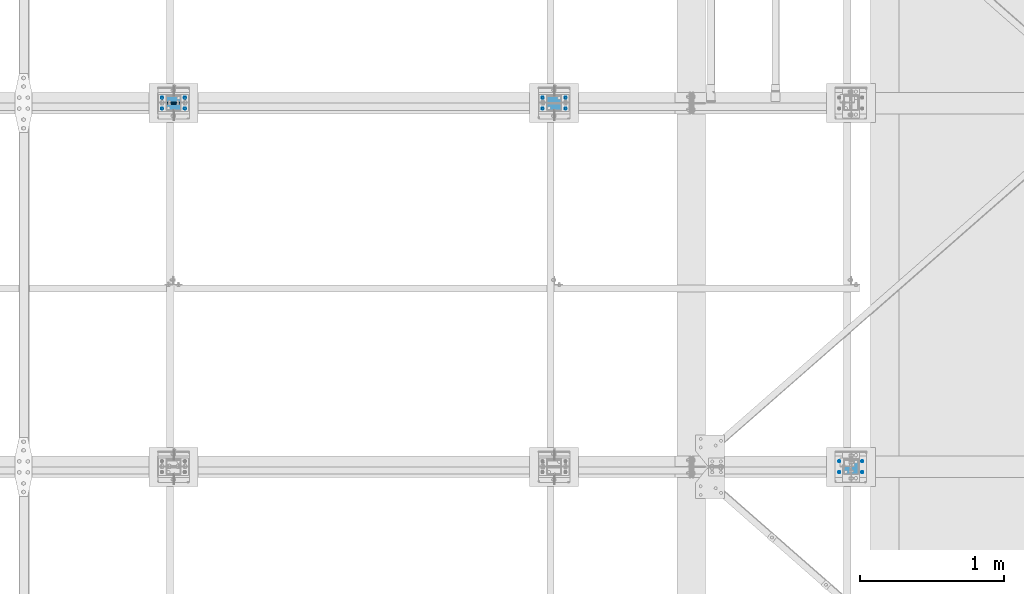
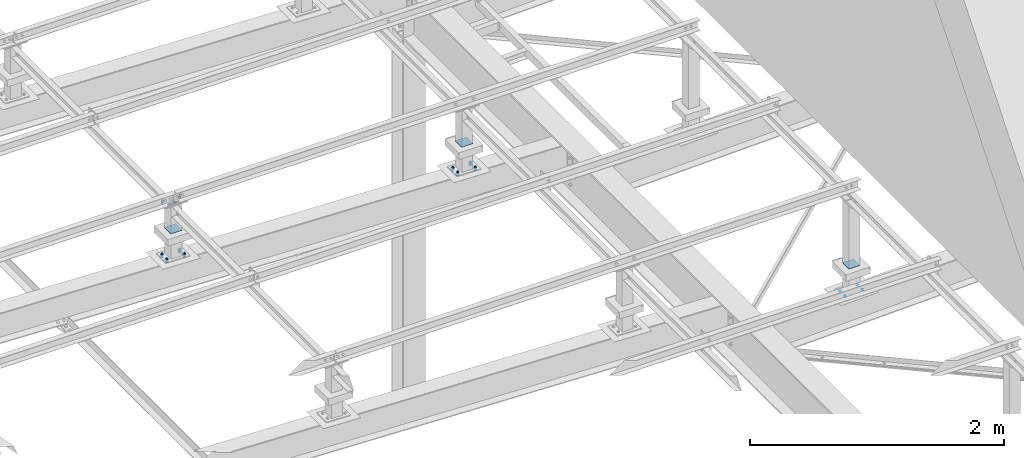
# One storey, part 83 of 3134: 10 mechanical fasteners, 7 elements without a shape of their own.
"""IFC2X3 building model written with IfcOpenShell, lengths in millimetres."""

from ifc_helpers import new_model, si_unit, frame, origin_with_axes, place, context, subcontext, project, spatial, faceted_brep, source, transform, mapped, material, type_object, element, aggregate, save


model = new_model("IFC2X3")

# Units and contexts
model_context = context("Model", 3, precision=1e-05, world=origin_with_axes())
body_context = subcontext(model_context, "Body", "Model", "MODEL_VIEW")
ifc_project = project(units=[si_unit("LENGTHUNIT", "METRE", prefix="MILLI"), si_unit("AREAUNIT", "SQUARE_METRE"), si_unit("VOLUMEUNIT", "CUBIC_METRE"), si_unit("MASSUNIT", "GRAM", prefix="KILO"), si_unit("TIMEUNIT", "SECOND"), si_unit("PLANEANGLEUNIT", "RADIAN"), si_unit("SOLIDANGLEUNIT", "STERADIAN"), si_unit("THERMODYNAMICTEMPERATUREUNIT", "DEGREE_CELSIUS"), si_unit("LUMINOUSINTENSITYUNIT", "LUMEN")], contexts=[model_context])

# Site, building, storey
site_placement = place(None, origin_with_axes())
site = spatial("IfcSite", under=ifc_project, at=site_placement, CompositionType="ELEMENT")
building_placement = place(site_placement, origin_with_axes())
building = spatial("IfcBuilding", under=site, at=building_placement, Name="Undefined", CompositionType="ELEMENT")
storey_placement = place(building_placement, origin_with_axes())
storey = spatial("IfcBuildingStorey", under=building, at=storey_placement, Name="Undefined", CompositionType="ELEMENT", Elevation=0.0)

# Assembly, mechanical fastener
assembly_1_placement = place(storey_placement, origin_with_axes())
assembly_1 = element("IfcElementAssembly", 1, at=assembly_1_placement, inside=storey, AssemblyPlace="NOTDEFINED", PredefinedType="RIGID_FRAME")
ifc_material_1 = material(Name="8.8")
mechanical_fastener_type = type_object("IfcMechanicalFastenerType", Name="Bolt assembly")
shared_shape_1 = source(origin_with_axes(), body_context, "Body", "Brep", [
    faceted_brep([(10.9696551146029, -14.0, 0.0), (5.48482755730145, -14.0, 9.5), (-5.48482755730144, -14.0, 9.5), (-10.9696551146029, -14.0, 1.34339530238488e-15), (-5.48482755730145, -14.0, -9.5), (5.48482755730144, -14.0, -9.50000000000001), (5.48482755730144, -6.0, -9.50000000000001), (-5.48482755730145, -6.0, -9.5), (-10.9696551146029, -6.0, 1.34339530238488e-15), (-5.48482755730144, -6.0, 9.5), (5.48482755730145, -6.0, 9.5), (10.9696551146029, -6.0, 0.0), (6.0, -6.0, 0.0), (5.19615242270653, -6.0, 3.00000000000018), (2.99999999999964, -6.0, 5.19615242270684), (-6.21801588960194e-13, -6.0, 6.0), (-3.00000000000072, -6.0, 5.19615242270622), (-5.19615242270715, -6.0, 2.9999999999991), (-6.0, -6.0, -1.24360317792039e-12), (-5.19615242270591, -6.0, -3.00000000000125), (-2.99999999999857, -6.0, -5.19615242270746), (1.85874342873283e-12, -6.0, -6.0), (3.00000000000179, -6.0, -5.1961524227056), (5.19615242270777, -6.0, -2.99999999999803), (5.19615242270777, 24.0, -2.99999999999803), (3.00000000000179, 24.0, -5.1961524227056), (1.85874342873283e-12, 24.0, -6.0), (-2.99999999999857, 24.0, -5.19615242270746), (-5.19615242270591, 24.0, -3.00000000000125), (-6.0, 24.0, -1.24360317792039e-12), (-5.19615242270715, 24.0, 2.9999999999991), (-3.00000000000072, 24.0, 5.19615242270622), (-6.21801588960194e-13, 24.0, 6.0), (2.99999999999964, 24.0, 5.19615242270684), (5.19615242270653, 24.0, 3.00000000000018), (6.0, 24.0, 0.0), (10.9696551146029, 6.00000000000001, 0.0), (5.48482755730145, 6.00000000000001, 9.5), (-5.48482755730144, 6.00000000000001, 9.5), (-10.9696551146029, 6.00000000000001, 1.34339530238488e-15), (-5.48482755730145, 6.00000000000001, -9.5), (5.48482755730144, 6.00000000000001, -9.50000000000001), (5.48482755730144, 16.0, -9.50000000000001), (-5.48482755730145, 16.0, -9.5), (-10.9696551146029, 16.0, 1.34339530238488e-15), (-5.48482755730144, 16.0, 9.5), (5.48482755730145, 16.0, 9.5), (10.9696551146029, 16.0, 0.0)], [[[0, 1, 2, 3, 4, 5]], [[6, 7, 8, 9, 10, 11]], [[0, 11, 10, 1]], [[1, 10, 9, 2]], [[2, 9, 8, 3]], [[3, 8, 7, 4]], [[4, 7, 6, 5]], [[5, 6, 11, 0]], [[12, 13, 14, 15, 16, 17, 18, 19, 20, 21, 22, 23]], [[24, 25, 26, 27, 28, 29, 30, 31, 32, 33, 34, 35]], [[12, 35, 34, 13]], [[13, 34, 33, 14]], [[14, 33, 32, 15]], [[15, 32, 31, 16]], [[16, 31, 30, 17]], [[17, 30, 29, 18]], [[18, 29, 28, 19]], [[19, 28, 27, 20]], [[20, 27, 26, 21]], [[21, 26, 25, 22]], [[22, 25, 24, 23]], [[23, 24, 35, 12]], [[36, 37, 38, 39, 40, 41]], [[42, 43, 44, 45, 46, 47]], [[36, 47, 46, 37]], [[37, 46, 45, 38]], [[38, 45, 44, 39]], [[39, 44, 43, 40]], [[40, 43, 42, 41]], [[41, 42, 47, 36]]]),
    faceted_brep([(7.0, -0.1, 0.0), (6.06217782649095, -0.1, 3.50000000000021), (3.49999999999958, -0.1, 6.06217782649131), (-7.25435187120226e-13, -0.1, 7.0), (-3.50000000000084, -0.1, 6.06217782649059), (-6.06217782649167, -0.1, 3.49999999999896), (-7.0, -0.1, -1.45087037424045e-12), (-6.06217782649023, -0.1, -3.50000000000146), (-3.49999999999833, -0.1, -6.06217782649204), (2.1685340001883e-12, -0.1, -7.0), (3.50000000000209, -0.1, -6.06217782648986), (6.0621778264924, -0.1, -3.4999999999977), (6.0621778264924, 6.00000000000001, -3.4999999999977), (3.50000000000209, 6.00000000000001, -6.06217782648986), (2.1685340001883e-12, 6.00000000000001, -7.0), (-3.49999999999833, 6.00000000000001, -6.06217782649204), (-6.06217782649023, 6.00000000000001, -3.50000000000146), (-7.0, 6.00000000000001, -1.45087037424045e-12), (-6.06217782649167, 6.00000000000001, 3.49999999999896), (-3.50000000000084, 6.00000000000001, 6.06217782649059), (-7.25435187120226e-13, 6.00000000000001, 7.0), (3.49999999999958, 6.00000000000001, 6.06217782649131), (6.06217782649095, 6.00000000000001, 3.50000000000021), (7.0, 6.00000000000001, 0.0), (7.0, -5.9, 0.0), (6.06217782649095, -5.9, 3.50000000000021), (3.49999999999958, -5.9, 6.06217782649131), (-7.25435187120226e-13, -5.9, 7.0), (-3.50000000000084, -5.9, 6.06217782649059), (-6.06217782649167, -5.9, 3.49999999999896), (-7.0, -5.9, -1.45087037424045e-12), (-6.06217782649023, -5.9, -3.50000000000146), (-3.49999999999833, -5.9, -6.06217782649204), (2.1685340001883e-12, -5.9, -7.0), (3.50000000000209, -5.9, -6.06217782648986), (6.0621778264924, -5.9, -3.4999999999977), (6.0621778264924, 0.0999999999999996, -3.4999999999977), (3.50000000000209, 0.0999999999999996, -6.06217782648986), (2.1685340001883e-12, 0.0999999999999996, -7.0), (-3.49999999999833, 0.0999999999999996, -6.06217782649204), (-6.06217782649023, 0.0999999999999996, -3.50000000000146), (-7.0, 0.0999999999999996, -1.45087037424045e-12), (-6.06217782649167, 0.0999999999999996, 3.49999999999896), (-3.50000000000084, 0.0999999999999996, 6.06217782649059), (-7.25435187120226e-13, 0.0999999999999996, 7.0), (3.49999999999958, 0.0999999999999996, 6.06217782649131), (6.06217782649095, 0.0999999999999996, 3.50000000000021), (7.0, 0.0999999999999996, 0.0)], [[[0, 1, 2, 3, 4, 5, 6, 7, 8, 9, 10, 11]], [[12, 13, 14, 15, 16, 17, 18, 19, 20, 21, 22, 23]], [[0, 23, 22, 1]], [[1, 22, 21, 2]], [[2, 21, 20, 3]], [[3, 20, 19, 4]], [[4, 19, 18, 5]], [[5, 18, 17, 6]], [[6, 17, 16, 7]], [[7, 16, 15, 8]], [[8, 15, 14, 9]], [[9, 14, 13, 10]], [[10, 13, 12, 11]], [[11, 12, 23, 0]], [[24, 25, 26, 27, 28, 29, 30, 31, 32, 33, 34, 35]], [[36, 37, 38, 39, 40, 41, 42, 43, 44, 45, 46, 47]], [[24, 47, 46, 25]], [[25, 46, 45, 26]], [[26, 45, 44, 27]], [[27, 44, 43, 28]], [[28, 43, 42, 29]], [[29, 42, 41, 30]], [[30, 41, 40, 31]], [[31, 40, 39, 32]], [[32, 39, 38, 33]], [[33, 38, 37, 34]], [[34, 37, 36, 35]], [[35, 36, 47, 24]]]),
])
mechanical_fastener_1_placement = place(assembly_1_placement, frame((5691.67, 27078.75, 4365.0), z_axis=(1.0, 0.0, 0.0), x_axis=(0.0, -1.0, 0.0)))
mechanical_fastener_1 = element("IfcMechanicalFastener", 2, at=mechanical_fastener_1_placement, type_object=mechanical_fastener_type, material=ifc_material_1, Name="Bolt assembly", NominalDiameter=12.0, NominalLength=30.0, context=body_context, shape_type="MappedRepresentation", body=[
    mapped(shared_shape_1, transform((0.0, -5.32963895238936e-10, -79.9999999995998))),
    mapped(shared_shape_1, transform((0.0, 5.3114490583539e-10, 79.9999999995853))),
])
aggregate(assembly_1, [mechanical_fastener_1])

assembly_2_placement = place(storey_placement, origin_with_axes())
assembly_2 = element("IfcElementAssembly", 3, at=assembly_2_placement, inside=storey, AssemblyPlace="NOTDEFINED", PredefinedType="RIGID_FRAME")
shared_shape_2 = source(origin_with_axes(), body_context, "Body", "Brep", [
    faceted_brep([(10.9696551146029, -4.18280906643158, 0.0), (5.48482755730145, -4.18280906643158, 9.5), (-5.48482755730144, -4.18280906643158, 9.5), (-10.9696551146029, -4.18280906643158, 1.34339530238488e-15), (-5.48482755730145, -4.18280906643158, -9.5), (5.48482755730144, -4.18280906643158, -9.50000000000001), (5.48482755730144, 3.81719093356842, -9.50000000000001), (-5.48482755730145, 3.81719093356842, -9.5), (-10.9696551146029, 3.81719093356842, 1.34339530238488e-15), (-5.48482755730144, 3.81719093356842, 9.5), (5.48482755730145, 3.81719093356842, 9.5), (10.9696551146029, 3.81719093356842, 0.0), (6.0, 3.81719093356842, 0.0), (5.19615242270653, 3.81719093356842, 3.00000000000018), (2.99999999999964, 3.81719093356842, 5.19615242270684), (-6.21801588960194e-13, 3.81719093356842, 6.0), (-3.00000000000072, 3.81719093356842, 5.19615242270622), (-5.19615242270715, 3.81719093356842, 2.9999999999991), (-6.0, 3.81719093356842, -1.24360317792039e-12), (-5.19615242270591, 3.81719093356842, -3.00000000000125), (-2.99999999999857, 3.81719093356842, -5.19615242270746), (1.85874342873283e-12, 3.81719093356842, -6.0), (3.00000000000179, 3.81719093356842, -5.1961524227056), (5.19615242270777, 3.81719093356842, -2.99999999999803), (5.19615242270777, 38.8171909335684, -2.99999999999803), (3.00000000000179, 38.8171909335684, -5.1961524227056), (1.85874342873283e-12, 38.8171909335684, -6.0), (-2.99999999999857, 38.8171909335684, -5.19615242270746), (-5.19615242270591, 38.8171909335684, -3.00000000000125), (-6.0, 38.8171909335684, -1.24360317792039e-12), (-5.19615242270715, 38.8171909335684, 2.9999999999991), (-3.00000000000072, 38.8171909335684, 5.19615242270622), (-6.21801588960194e-13, 38.8171909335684, 6.0), (2.99999999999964, 38.8171909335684, 5.19615242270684), (5.19615242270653, 38.8171909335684, 3.00000000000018), (6.0, 38.8171909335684, 0.0), (10.9696551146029, 23.0139082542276, 0.0), (5.48482755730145, 23.0139082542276, 9.5), (-5.48482755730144, 23.0139082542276, 9.5), (-10.9696551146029, 23.0139082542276, 1.34339530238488e-15), (-5.48482755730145, 23.0139082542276, -9.5), (5.48482755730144, 23.0139082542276, -9.50000000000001), (5.48482755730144, 33.0139082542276, -9.50000000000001), (-5.48482755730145, 33.0139082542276, -9.5), (-10.9696551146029, 33.0139082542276, 1.34339530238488e-15), (-5.48482755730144, 33.0139082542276, 9.5), (5.48482755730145, 33.0139082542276, 9.5), (10.9696551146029, 33.0139082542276, 0.0)], [[[0, 1, 2, 3, 4, 5]], [[6, 7, 8, 9, 10, 11]], [[0, 11, 10, 1]], [[1, 10, 9, 2]], [[2, 9, 8, 3]], [[3, 8, 7, 4]], [[4, 7, 6, 5]], [[5, 6, 11, 0]], [[12, 13, 14, 15, 16, 17, 18, 19, 20, 21, 22, 23]], [[24, 25, 26, 27, 28, 29, 30, 31, 32, 33, 34, 35]], [[12, 35, 34, 13]], [[13, 34, 33, 14]], [[14, 33, 32, 15]], [[15, 32, 31, 16]], [[16, 31, 30, 17]], [[17, 30, 29, 18]], [[18, 29, 28, 19]], [[19, 28, 27, 20]], [[20, 27, 26, 21]], [[21, 26, 25, 22]], [[22, 25, 24, 23]], [[23, 24, 35, 12]], [[36, 37, 38, 39, 40, 41]], [[42, 43, 44, 45, 46, 47]], [[36, 47, 46, 37]], [[37, 46, 45, 38]], [[38, 45, 44, 39]], [[39, 44, 43, 40]], [[40, 43, 42, 41]], [[41, 42, 47, 36]]]),
    faceted_brep([(7.0, 3.91719093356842, 0.0), (6.06217782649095, 3.91719093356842, 3.50000000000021), (3.49999999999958, 3.91719093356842, 6.06217782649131), (-7.25435187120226e-13, 3.91719093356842, 7.0), (-3.50000000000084, 3.91719093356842, 6.06217782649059), (-6.06217782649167, 3.91719093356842, 3.49999999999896), (-7.0, 3.91719093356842, -1.45087037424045e-12), (-6.06217782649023, 3.91719093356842, -3.50000000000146), (-3.49999999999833, 3.91719093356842, -6.06217782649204), (2.1685340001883e-12, 3.91719093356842, -7.0), (3.50000000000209, 3.91719093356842, -6.06217782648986), (6.0621778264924, 3.91719093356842, -3.4999999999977), (6.0621778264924, 13.1171907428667, -3.4999999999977), (3.50000000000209, 13.1171907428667, -6.06217782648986), (2.1685340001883e-12, 13.1171907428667, -7.0), (-3.49999999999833, 13.1171907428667, -6.06217782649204), (-6.06217782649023, 13.1171907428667, -3.50000000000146), (-7.0, 13.1171907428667, -1.45087037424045e-12), (-6.06217782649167, 13.1171907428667, 3.49999999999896), (-3.50000000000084, 13.1171907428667, 6.06217782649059), (-7.25435187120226e-13, 13.1171907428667, 7.0), (3.49999999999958, 13.1171907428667, 6.06217782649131), (6.06217782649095, 13.1171907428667, 3.50000000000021), (7.0, 13.1171907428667, 0.0), (7.0, 14.9139082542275, 0.0), (6.06217782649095, 14.9139082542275, 3.50000000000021), (3.49999999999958, 14.9139082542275, 6.06217782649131), (-7.25435187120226e-13, 14.9139082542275, 7.0), (-3.50000000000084, 14.9139082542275, 6.06217782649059), (-6.06217782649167, 14.9139082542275, 3.49999999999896), (-7.0, 14.9139082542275, -1.45087037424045e-12), (-6.06217782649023, 14.9139082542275, -3.50000000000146), (-3.49999999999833, 14.9139082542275, -6.06217782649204), (2.1685340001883e-12, 14.9139082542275, -7.0), (3.50000000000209, 14.9139082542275, -6.06217782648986), (6.0621778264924, 14.9139082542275, -3.4999999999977), (6.0621778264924, 23.0139082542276, -3.4999999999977), (3.50000000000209, 23.0139082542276, -6.06217782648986), (2.1685340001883e-12, 23.0139082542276, -7.0), (-3.49999999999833, 23.0139082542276, -6.06217782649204), (-6.06217782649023, 23.0139082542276, -3.50000000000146), (-7.0, 23.0139082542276, -1.45087037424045e-12), (-6.06217782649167, 23.0139082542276, 3.49999999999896), (-3.50000000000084, 23.0139082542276, 6.06217782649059), (-7.25435187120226e-13, 23.0139082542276, 7.0), (3.49999999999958, 23.0139082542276, 6.06217782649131), (6.06217782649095, 23.0139082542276, 3.50000000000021), (7.0, 23.0139082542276, 0.0)], [[[0, 1, 2, 3, 4, 5, 6, 7, 8, 9, 10, 11]], [[12, 13, 14, 15, 16, 17, 18, 19, 20, 21, 22, 23]], [[0, 23, 22, 1]], [[1, 22, 21, 2]], [[2, 21, 20, 3]], [[3, 20, 19, 4]], [[4, 19, 18, 5]], [[5, 18, 17, 6]], [[6, 17, 16, 7]], [[7, 16, 15, 8]], [[8, 15, 14, 9]], [[9, 14, 13, 10]], [[10, 13, 12, 11]], [[11, 12, 23, 0]], [[24, 25, 26, 27, 28, 29, 30, 31, 32, 33, 34, 35]], [[36, 37, 38, 39, 40, 41, 42, 43, 44, 45, 46, 47]], [[24, 47, 46, 25]], [[25, 46, 45, 26]], [[26, 45, 44, 27]], [[27, 44, 43, 28]], [[28, 43, 42, 29]], [[29, 42, 41, 30]], [[30, 41, 40, 31]], [[31, 40, 39, 32]], [[32, 39, 38, 33]], [[33, 38, 37, 34]], [[34, 37, 36, 35]], [[35, 36, 47, 24]]]),
])
mechanical_fastener_2_placement = place(assembly_2_placement, frame((5690.86474073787, 27081.7499999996, 3827.79222028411), z_axis=(-0.999387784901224, 0.0, 0.0349865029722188), x_axis=(0.0, -1.0, 0.0)))
mechanical_fastener_2 = element("IfcMechanicalFastener", 4, at=mechanical_fastener_2_placement, type_object=mechanical_fastener_type, material=ifc_material_1, Name="Bolt assembly", NominalDiameter=12.0, NominalLength=35.0, context=body_context, shape_type="MappedRepresentation", body=[
    mapped(shared_shape_2, transform((0.0, -5.32963895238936e-10, -79.9999999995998))),
    mapped(shared_shape_2, transform((76.0, -5.32963895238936e-10, -79.9999999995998))),
    mapped(shared_shape_2, transform((0.0, 5.3114490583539e-10, 79.9999999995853))),
    mapped(shared_shape_2, transform((76.0, 5.3114490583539e-10, 79.9999999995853))),
])

assembly_3_placement = place(storey_placement, origin_with_axes())
assembly_3 = element("IfcElementAssembly", 5, at=assembly_3_placement, inside=storey, AssemblyPlace="NOTDEFINED", PredefinedType="RIGID_FRAME")
shared_shape_3 = source(origin_with_axes(), body_context, "Body", "Brep", [
    faceted_brep([(10.9696551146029, -4.18346828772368, 0.0), (5.48482755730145, -4.18346828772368, 9.5), (-5.48482755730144, -4.18346828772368, 9.5), (-10.9696551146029, -4.18346828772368, 1.34339530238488e-15), (-5.48482755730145, -4.18346828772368, -9.5), (5.48482755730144, -4.18346828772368, -9.50000000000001), (5.48482755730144, 3.81653171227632, -9.50000000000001), (-5.48482755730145, 3.81653171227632, -9.5), (-10.9696551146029, 3.81653171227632, 1.34339530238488e-15), (-5.48482755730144, 3.81653171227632, 9.5), (5.48482755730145, 3.81653171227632, 9.5), (10.9696551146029, 3.81653171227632, 0.0), (6.0, 3.81653171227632, 0.0), (5.19615242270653, 3.81653171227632, 3.00000000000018), (2.99999999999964, 3.81653171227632, 5.19615242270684), (-6.21801588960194e-13, 3.81653171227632, 6.0), (-3.00000000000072, 3.81653171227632, 5.19615242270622), (-5.19615242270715, 3.81653171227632, 2.9999999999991), (-6.0, 3.81653171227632, -1.24360317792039e-12), (-5.19615242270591, 3.81653171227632, -3.00000000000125), (-2.99999999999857, 3.81653171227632, -5.19615242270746), (1.85874342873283e-12, 3.81653171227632, -6.0), (3.00000000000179, 3.81653171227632, -5.1961524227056), (5.19615242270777, 3.81653171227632, -2.99999999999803), (5.19615242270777, 38.8165317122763, -2.99999999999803), (3.00000000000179, 38.8165317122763, -5.1961524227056), (1.85874342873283e-12, 38.8165317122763, -6.0), (-2.99999999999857, 38.8165317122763, -5.19615242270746), (-5.19615242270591, 38.8165317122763, -3.00000000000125), (-6.0, 38.8165317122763, -1.24360317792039e-12), (-5.19615242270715, 38.8165317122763, 2.9999999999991), (-3.00000000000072, 38.8165317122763, 5.19615242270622), (-6.21801588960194e-13, 38.8165317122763, 6.0), (2.99999999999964, 38.8165317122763, 5.19615242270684), (5.19615242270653, 38.8165317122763, 3.00000000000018), (6.0, 38.8165317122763, 0.0), (10.9696551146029, 23.0139082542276, 0.0), (5.48482755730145, 23.0139082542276, 9.5), (-5.48482755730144, 23.0139082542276, 9.5), (-10.9696551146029, 23.0139082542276, 1.34339530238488e-15), (-5.48482755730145, 23.0139082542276, -9.5), (5.48482755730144, 23.0139082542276, -9.50000000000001), (5.48482755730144, 33.0139082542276, -9.50000000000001), (-5.48482755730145, 33.0139082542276, -9.5), (-10.9696551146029, 33.0139082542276, 1.34339530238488e-15), (-5.48482755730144, 33.0139082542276, 9.5), (5.48482755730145, 33.0139082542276, 9.5), (10.9696551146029, 33.0139082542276, 0.0)], [[[0, 1, 2, 3, 4, 5]], [[6, 7, 8, 9, 10, 11]], [[0, 11, 10, 1]], [[1, 10, 9, 2]], [[2, 9, 8, 3]], [[3, 8, 7, 4]], [[4, 7, 6, 5]], [[5, 6, 11, 0]], [[12, 13, 14, 15, 16, 17, 18, 19, 20, 21, 22, 23]], [[24, 25, 26, 27, 28, 29, 30, 31, 32, 33, 34, 35]], [[12, 35, 34, 13]], [[13, 34, 33, 14]], [[14, 33, 32, 15]], [[15, 32, 31, 16]], [[16, 31, 30, 17]], [[17, 30, 29, 18]], [[18, 29, 28, 19]], [[19, 28, 27, 20]], [[20, 27, 26, 21]], [[21, 26, 25, 22]], [[22, 25, 24, 23]], [[23, 24, 35, 12]], [[36, 37, 38, 39, 40, 41]], [[42, 43, 44, 45, 46, 47]], [[36, 47, 46, 37]], [[37, 46, 45, 38]], [[38, 45, 44, 39]], [[39, 44, 43, 40]], [[40, 43, 42, 41]], [[41, 42, 47, 36]]]),
    faceted_brep([(7.0, 3.91653171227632, 0.0), (6.06217782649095, 3.91653171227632, 3.50000000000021), (3.49999999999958, 3.91653171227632, 6.06217782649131), (-7.25435187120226e-13, 3.91653171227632, 7.0), (-3.50000000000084, 3.91653171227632, 6.06217782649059), (-6.06217782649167, 3.91653171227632, 3.49999999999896), (-7.0, 3.91653171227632, -1.45087037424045e-12), (-6.06217782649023, 3.91653171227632, -3.50000000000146), (-3.49999999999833, 3.91653171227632, -6.06217782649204), (2.1685340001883e-12, 3.91653171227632, -7.0), (3.50000000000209, 3.91653171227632, -6.06217782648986), (6.0621778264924, 3.91653171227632, -3.4999999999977), (6.0621778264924, 13.1165315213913, -3.4999999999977), (3.50000000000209, 13.1165315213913, -6.06217782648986), (2.1685340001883e-12, 13.1165315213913, -7.0), (-3.49999999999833, 13.1165315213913, -6.06217782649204), (-6.06217782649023, 13.1165315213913, -3.50000000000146), (-7.0, 13.1165315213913, -1.45087037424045e-12), (-6.06217782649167, 13.1165315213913, 3.49999999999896), (-3.50000000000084, 13.1165315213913, 6.06217782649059), (-7.25435187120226e-13, 13.1165315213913, 7.0), (3.49999999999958, 13.1165315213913, 6.06217782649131), (6.06217782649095, 13.1165315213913, 3.50000000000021), (7.0, 13.1165315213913, 0.0), (7.0, 14.9139082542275, 0.0), (6.06217782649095, 14.9139082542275, 3.50000000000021), (3.49999999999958, 14.9139082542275, 6.06217782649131), (-7.25435187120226e-13, 14.9139082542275, 7.0), (-3.50000000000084, 14.9139082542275, 6.06217782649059), (-6.06217782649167, 14.9139082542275, 3.49999999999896), (-7.0, 14.9139082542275, -1.45087037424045e-12), (-6.06217782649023, 14.9139082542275, -3.50000000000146), (-3.49999999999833, 14.9139082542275, -6.06217782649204), (2.1685340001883e-12, 14.9139082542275, -7.0), (3.50000000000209, 14.9139082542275, -6.06217782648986), (6.0621778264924, 14.9139082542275, -3.4999999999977), (6.0621778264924, 23.0139082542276, -3.4999999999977), (3.50000000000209, 23.0139082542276, -6.06217782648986), (2.1685340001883e-12, 23.0139082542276, -7.0), (-3.49999999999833, 23.0139082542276, -6.06217782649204), (-6.06217782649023, 23.0139082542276, -3.50000000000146), (-7.0, 23.0139082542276, -1.45087037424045e-12), (-6.06217782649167, 23.0139082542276, 3.49999999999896), (-3.50000000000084, 23.0139082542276, 6.06217782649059), (-7.25435187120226e-13, 23.0139082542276, 7.0), (3.49999999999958, 23.0139082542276, 6.06217782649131), (6.06217782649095, 23.0139082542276, 3.50000000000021), (7.0, 23.0139082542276, 0.0)], [[[0, 1, 2, 3, 4, 5, 6, 7, 8, 9, 10, 11]], [[12, 13, 14, 15, 16, 17, 18, 19, 20, 21, 22, 23]], [[0, 23, 22, 1]], [[1, 22, 21, 2]], [[2, 21, 20, 3]], [[3, 20, 19, 4]], [[4, 19, 18, 5]], [[5, 18, 17, 6]], [[6, 17, 16, 7]], [[7, 16, 15, 8]], [[8, 15, 14, 9]], [[9, 14, 13, 10]], [[10, 13, 12, 11]], [[11, 12, 23, 0]], [[24, 25, 26, 27, 28, 29, 30, 31, 32, 33, 34, 35]], [[36, 37, 38, 39, 40, 41, 42, 43, 44, 45, 46, 47]], [[24, 47, 46, 25]], [[25, 46, 45, 26]], [[26, 45, 44, 27]], [[27, 44, 43, 28]], [[28, 43, 42, 29]], [[29, 42, 41, 30]], [[30, 41, 40, 31]], [[31, 40, 39, 32]], [[32, 39, 38, 33]], [[33, 38, 37, 34]], [[34, 37, 36, 35]], [[35, 36, 47, 24]]]),
])
mechanical_fastener_3_placement = place(assembly_3_placement, frame((8339.1931765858, 27081.7499999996, 3735.10000668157), z_axis=(-0.999387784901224, 0.0, 0.0349865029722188), x_axis=(0.0, -1.0, 0.0)))
mechanical_fastener_3 = element("IfcMechanicalFastener", 6, at=mechanical_fastener_3_placement, type_object=mechanical_fastener_type, material=ifc_material_1, Name="Bolt assembly", NominalDiameter=12.0, NominalLength=35.0, context=body_context, shape_type="MappedRepresentation", body=[
    mapped(shared_shape_3, transform((0.0, -5.32963895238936e-10, -79.9999999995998))),
    mapped(shared_shape_3, transform((76.0, -5.32963895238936e-10, -79.9999999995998))),
    mapped(shared_shape_3, transform((0.0, 5.3114490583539e-10, 79.9999999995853))),
    mapped(shared_shape_3, transform((76.0, 5.3114490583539e-10, 79.9999999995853))),
])

assembly_4_placement = place(storey_placement, origin_with_axes())
assembly_4 = element("IfcElementAssembly", 7, at=assembly_4_placement, inside=storey, AssemblyPlace="NOTDEFINED", PredefinedType="RIGID_FRAME")
shared_shape_4 = source(origin_with_axes(), body_context, "Body", "Brep", [
    faceted_brep([(7.0, 13.0000253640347, 0.0), (6.06217782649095, 13.0000253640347, 3.50000000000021), (3.49999999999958, 13.0000253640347, 6.06217782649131), (-7.25435187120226e-13, 13.0000253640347, 7.0), (-3.50000000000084, 13.0000253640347, 6.06217782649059), (-6.06217782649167, 13.0000253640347, 3.49999999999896), (-7.0, 13.0000253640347, -1.45087037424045e-12), (-6.06217782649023, 13.0000253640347, -3.50000000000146), (-3.49999999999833, 13.0000253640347, -6.06217782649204), (2.1685340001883e-12, 13.0000253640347, -7.0), (3.50000000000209, 13.0000253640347, -6.06217782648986), (6.0621778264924, 13.0000253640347, -3.4999999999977), (6.0621778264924, 15.0999999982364, -3.4999999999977), (3.50000000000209, 15.0999999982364, -6.06217782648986), (2.1685340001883e-12, 15.0999999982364, -7.0), (-3.49999999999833, 15.0999999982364, -6.06217782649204), (-6.06217782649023, 15.0999999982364, -3.50000000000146), (-7.0, 15.0999999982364, -1.45087037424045e-12), (-6.06217782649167, 15.0999999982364, 3.49999999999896), (-3.50000000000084, 15.0999999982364, 6.06217782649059), (-7.25435187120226e-13, 15.0999999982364, 7.0), (3.49999999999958, 15.0999999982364, 6.06217782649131), (6.06217782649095, 15.0999999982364, 3.50000000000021), (7.0, 15.0999999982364, 0.0)], [[[0, 1, 2, 3, 4, 5, 6, 7, 8, 9, 10, 11]], [[12, 13, 14, 15, 16, 17, 18, 19, 20, 21, 22, 23]], [[0, 23, 22, 1]], [[1, 22, 21, 2]], [[2, 21, 20, 3]], [[3, 20, 19, 4]], [[4, 19, 18, 5]], [[5, 18, 17, 6]], [[6, 17, 16, 7]], [[7, 16, 15, 8]], [[8, 15, 14, 9]], [[9, 14, 13, 10]], [[10, 13, 12, 11]], [[11, 12, 23, 0]]]),
])
mechanical_fastener_4_placement = place(assembly_4_placement, frame((10405.7748812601, 24474.5, 3374.2272055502), z_axis=(0.999519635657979, 0.0, 0.0309919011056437), x_axis=(0.0, 1.0, 0.0)))
mechanical_fastener_4 = element("IfcMechanicalFastener", 8, at=mechanical_fastener_4_placement, type_object=mechanical_fastener_type, material=ifc_material_1, Name="Bolt assembly", NominalDiameter=12.0, NominalLength=2.0, context=body_context, shape_type="MappedRepresentation", body=[
    mapped(shared_shape_4, transform((0.0, -5.32963895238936e-10, -79.9999999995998))),
    mapped(shared_shape_4, transform((76.0, -5.32963895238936e-10, -79.9999999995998))),
    mapped(shared_shape_4, transform((0.0, 5.3114490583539e-10, 79.9999999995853))),
    mapped(shared_shape_4, transform((76.0, 5.3114490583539e-10, 79.9999999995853))),
])
aggregate(assembly_4, [mechanical_fastener_4])

assembly_5_placement = place(storey_placement, origin_with_axes())
assembly_5 = element("IfcElementAssembly", 9, at=assembly_5_placement, inside=storey, AssemblyPlace="NOTDEFINED", PredefinedType="RIGID_FRAME")
mechanical_fastener_5_placement = place(assembly_5_placement, frame((8339.1931765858, 27081.7499999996, 3735.10000668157), z_axis=(-0.999387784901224, 0.0, 0.0349865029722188), x_axis=(0.0, -1.0, 0.0)))
mechanical_fastener_5 = element("IfcMechanicalFastener", 10, at=mechanical_fastener_5_placement, type_object=mechanical_fastener_type, material=ifc_material_1, Name="Bolt assembly", NominalDiameter=12.0, NominalLength=2.0, context=body_context, shape_type="MappedRepresentation", body=[
    mapped(shared_shape_4, transform((0.0, -5.32963895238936e-10, -79.9999999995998))),
    mapped(shared_shape_4, transform((76.0, -5.32963895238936e-10, -79.9999999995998))),
    mapped(shared_shape_4, transform((0.0, 5.3114490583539e-10, 79.9999999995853))),
    mapped(shared_shape_4, transform((76.0, 5.3114490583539e-10, 79.9999999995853))),
])
aggregate(assembly_5, [mechanical_fastener_5])

assembly_6_placement = place(storey_placement, origin_with_axes())
assembly_6 = element("IfcElementAssembly", 11, at=assembly_6_placement, inside=storey, AssemblyPlace="NOTDEFINED", PredefinedType="RIGID_FRAME")
mechanical_fastener_6_placement = place(assembly_6_placement, frame((5690.86474073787, 27081.7499999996, 3827.79222028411), z_axis=(-0.999387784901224, 0.0, 0.0349865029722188), x_axis=(0.0, -1.0, 0.0)))
mechanical_fastener_6 = element("IfcMechanicalFastener", 12, at=mechanical_fastener_6_placement, type_object=mechanical_fastener_type, material=ifc_material_1, Name="Bolt assembly", NominalDiameter=12.0, NominalLength=2.0, context=body_context, shape_type="MappedRepresentation", body=[
    mapped(shared_shape_4, transform((0.0, -5.32963895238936e-10, -79.9999999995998))),
    mapped(shared_shape_4, transform((76.0, -5.32963895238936e-10, -79.9999999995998))),
    mapped(shared_shape_4, transform((0.0, 5.3114490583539e-10, 79.9999999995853))),
    mapped(shared_shape_4, transform((76.0, 5.3114490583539e-10, 79.9999999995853))),
])
aggregate(assembly_6, [mechanical_fastener_6])

# Mechanical fastener
shared_shape_5 = source(origin_with_axes(), body_context, "Body", "Brep", [
    faceted_brep([(9.0, -50.0, 0.0), (7.79422863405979, -50.0, 4.50000000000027), (4.49999999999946, -50.0, 7.79422863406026), (-9.3270238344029e-13, -50.0, 9.0), (-4.50000000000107, -50.0, 7.79422863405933), (-7.79422863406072, -50.0, 4.49999999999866), (-9.0, -50.0, -1.86540476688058e-12), (-7.79422863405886, -50.0, -4.50000000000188), (-4.49999999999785, -50.0, -7.79422863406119), (2.78811514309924e-12, -50.0, -9.0), (4.50000000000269, -50.0, -7.7942286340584), (7.79422863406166, -50.0, -4.49999999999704), (7.79422863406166, 50.1, -4.49999999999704), (4.50000000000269, 50.1, -7.7942286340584), (2.78811514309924e-12, 50.1, -9.0), (-4.49999999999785, 50.1, -7.79422863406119), (-7.79422863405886, 50.1, -4.50000000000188), (-9.0, 50.1, -1.86540476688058e-12), (-7.79422863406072, 50.1, 4.49999999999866), (-4.50000000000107, 50.1, 7.79422863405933), (-9.3270238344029e-13, 50.1, 9.0), (4.49999999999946, 50.1, 7.79422863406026), (7.79422863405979, 50.1, 4.50000000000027), (9.0, 50.1, 0.0)], [[[0, 1, 2, 3, 4, 5, 6, 7, 8, 9, 10, 11]], [[12, 13, 14, 15, 16, 17, 18, 19, 20, 21, 22, 23]], [[0, 23, 22, 1]], [[1, 22, 21, 2]], [[2, 21, 20, 3]], [[3, 20, 19, 4]], [[4, 19, 18, 5]], [[5, 18, 17, 6]], [[6, 17, 16, 7]], [[7, 16, 15, 8]], [[8, 15, 14, 9]], [[9, 14, 13, 10]], [[10, 13, 12, 11]], [[11, 12, 23, 0]]]),
])
mechanical_fastener_7_placement = place(assembly_2_placement, frame((5691.67, 27043.75, 4345.0), z_axis=(0.0, 1.0, 0.0), x_axis=(0.0, 0.0, 1.0)))
mechanical_fastener_7 = element("IfcMechanicalFastener", 13, at=mechanical_fastener_7_placement, type_object=mechanical_fastener_type, material=ifc_material_1, Name="Bolt assembly", NominalDiameter=16.0, NominalLength=100.0, context=body_context, shape_type="MappedRepresentation", body=[
    mapped(shared_shape_5, transform((0.0, 0.0, 0.0))),
])

# Assembly, mechanical fastener
assembly_7_placement = place(storey_placement, origin_with_axes())
assembly_7 = element("IfcElementAssembly", 14, at=assembly_7_placement, inside=storey, AssemblyPlace="NOTDEFINED", PredefinedType="RIGID_FRAME")
ifc_material_2 = material(Name="6.8")
shared_shape_6 = source(origin_with_axes(), body_context, "Body", "Brep", [
    faceted_brep([(51.5, 1.36424205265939e-12, 50.0), (51.3858192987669, 1.36424205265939e-12, 50.5740251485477), (51.0606601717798, 1.36424205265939e-12, 51.0606601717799), (50.5740251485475, 1.36424205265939e-12, 51.385819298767), (-50.0000000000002, 1.36424205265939e-12, 51.5), (-50.7500000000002, 1.36424205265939e-12, 51.2990381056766), (-51.2990381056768, 1.36424205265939e-12, 50.7499999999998), (-51.5, 1.36424205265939e-12, 49.9999999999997), (-51.5, 1.36424205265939e-12, -50.0000000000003), (-51.2990381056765, 1.36424205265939e-12, -50.7500000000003), (-50.7499999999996, 1.36424205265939e-12, -51.2990381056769), (-49.9999999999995, 1.36424205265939e-12, -51.5), (50.0000000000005, 1.36424205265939e-12, -51.5), (50.7500000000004, 1.36424205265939e-12, -51.2990381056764), (51.2990381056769, 1.36424205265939e-12, -50.7499999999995), (51.5, 1.36424205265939e-12, -49.9999999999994), (51.5, 5.10000000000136, -49.9999999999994), (51.2990381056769, 5.10000000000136, -50.7499999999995), (50.7500000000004, 5.10000000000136, -51.2990381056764), (50.0000000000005, 5.10000000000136, -51.5), (-49.9999999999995, 5.10000000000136, -51.5), (-50.7499999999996, 5.10000000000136, -51.2990381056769), (-51.2990381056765, 5.10000000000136, -50.7500000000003), (-51.5, 5.10000000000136, -50.0000000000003), (-51.5, 5.10000000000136, 49.9999999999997), (-51.2990381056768, 5.10000000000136, 50.7499999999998), (-50.7500000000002, 5.10000000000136, 51.2990381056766), (-50.0000000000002, 5.10000000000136, 51.5), (50.5740251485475, 5.10000000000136, 51.385819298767), (51.0606601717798, 5.10000000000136, 51.0606601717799), (51.3858192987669, 5.10000000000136, 50.5740251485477), (51.5, 5.10000000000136, 50.0)], [[[0, 1, 2, 3, 4, 5, 6, 7, 8, 9, 10, 11, 12, 13, 14, 15]], [[16, 17, 18, 19, 20, 21, 22, 23, 24, 25, 26, 27, 28, 29, 30, 31]], [[0, 31, 30, 1]], [[1, 30, 29, 2]], [[2, 29, 28, 3]], [[3, 28, 27, 4]], [[4, 27, 26, 5]], [[5, 26, 25, 6]], [[6, 25, 24, 7]], [[7, 24, 23, 8]], [[8, 23, 22, 9]], [[9, 22, 21, 10]], [[10, 21, 20, 11]], [[11, 20, 19, 12]], [[12, 19, 18, 13]], [[13, 18, 17, 14]], [[14, 17, 16, 15]], [[15, 16, 31, 0]]]),
])
mechanical_fastener_8_placement = place(assembly_7_placement, frame((10405.0, 24512.5, 3643.81), z_axis=(0.0, -1.0, 0.0), x_axis=(-1.0, 0.0, 0.0)))
mechanical_fastener_8 = element("IfcMechanicalFastener", 15, at=mechanical_fastener_8_placement, type_object=mechanical_fastener_type, material=ifc_material_2, Name="Bolt assembly", NominalDiameter=10.0, NominalLength=5.0, context=body_context, shape_type="MappedRepresentation", body=[
    mapped(shared_shape_6, transform((0.0, 0.0, 0.0))),
])
aggregate(assembly_7, [mechanical_fastener_8])

# Mechanical fastener
mechanical_fastener_9_placement = place(assembly_3_placement, frame((8340.0, 27043.75, 4004.89), z_axis=(0.0, -1.0, 0.0), x_axis=(-1.0, 0.0, 0.0)))
mechanical_fastener_9 = element("IfcMechanicalFastener", 16, at=mechanical_fastener_9_placement, type_object=mechanical_fastener_type, material=ifc_material_2, Name="Bolt assembly", NominalDiameter=10.0, NominalLength=5.0, context=body_context, shape_type="MappedRepresentation", body=[
    mapped(shared_shape_6, transform((0.0, 0.0, 0.0))),
])

aggregate(assembly_3, [mechanical_fastener_3, mechanical_fastener_9])

mechanical_fastener_10_placement = place(assembly_2_placement, frame((5691.66156415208, 27043.75, 4097.5922136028), z_axis=(0.0, -1.0, 0.0), x_axis=(-1.0, 0.0, 0.0)))
mechanical_fastener_10 = element("IfcMechanicalFastener", 17, at=mechanical_fastener_10_placement, type_object=mechanical_fastener_type, material=ifc_material_2, Name="Bolt assembly", NominalDiameter=10.0, NominalLength=5.0, context=body_context, shape_type="MappedRepresentation", body=[
    mapped(shared_shape_6, transform((0.0, 0.0, 0.0))),
])

aggregate(assembly_2, [mechanical_fastener_2, mechanical_fastener_7, mechanical_fastener_10])

save(model, "model.ifc")
